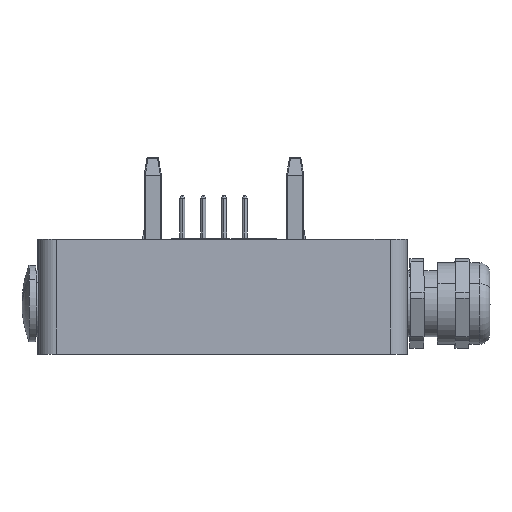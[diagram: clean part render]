
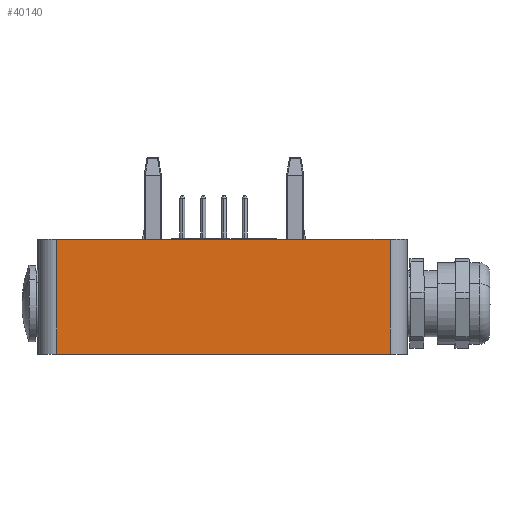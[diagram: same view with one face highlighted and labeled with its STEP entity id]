
A CAD part, left-side view. The second image highlights one B-rep face of the part: STEP entity #40140.
In plain terms, the highlighted planar face has unit normal (-1, -0.009, 0).
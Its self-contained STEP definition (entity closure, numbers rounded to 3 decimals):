
#3704 = DIRECTION ( 'NONE',  ( 0., 0., 1. ) ) ;
#4393 = LINE ( 'NONE', #52589, #54812 ) ;
#9016 = ORIENTED_EDGE ( 'NONE', *, *, #47068, .F. ) ;
#12367 = VERTEX_POINT ( 'NONE', #61094 ) ;
#13411 = PLANE ( 'NONE',  #40509 ) ;
#17214 = CARTESIAN_POINT ( 'NONE',  ( -40.531, 57.217, 12.742 ) ) ;
#17241 = EDGE_CURVE ( 'NONE', #52872, #12367, #4393, .T. ) ;
#18741 = EDGE_LOOP ( 'NONE', ( #47680, #25965, #9016, #57466 ) ) ;
#23225 = EDGE_CURVE ( 'NONE', #12367, #83842, #38580, .T. ) ;
#25965 = ORIENTED_EDGE ( 'NONE', *, *, #23225, .T. ) ;
#31397 = CARTESIAN_POINT ( 'NONE',  ( -40.531, 57.217, 12.742 ) ) ;
#37982 = LINE ( 'NONE', #44398, #43958 ) ;
#38580 = LINE ( 'NONE', #66507, #63798 ) ;
#40140 = ADVANCED_FACE ( 'NONE', ( #61593 ), #13411, .F. ) ;
#40509 = AXIS2_PLACEMENT_3D ( 'NONE', #83147, #75333, #47845 ) ;
#43958 = VECTOR ( 'NONE', #66800, 1000. ) ;
#44398 = CARTESIAN_POINT ( 'NONE',  ( -40.577, 62.217, 12.742 ) ) ;
#44555 = CARTESIAN_POINT ( 'NONE',  ( -40.531, 57.217, -20.258 ) ) ;
#45229 = DIRECTION ( 'NONE',  ( 0., 0., -1. ) ) ;
#47068 = EDGE_CURVE ( 'NONE', #50351, #83842, #37982, .T. ) ;
#47313 = CARTESIAN_POINT ( 'NONE',  ( -39.652, -38.779, 12.742 ) ) ;
#47680 = ORIENTED_EDGE ( 'NONE', *, *, #17241, .T. ) ;
#47845 = DIRECTION ( 'NONE',  ( -0.009, 1., 0. ) ) ;
#50351 = VERTEX_POINT ( 'NONE', #31397 ) ;
#51407 = VECTOR ( 'NONE', #45229, 1000. ) ;
#52589 = CARTESIAN_POINT ( 'NONE',  ( -40.577, 62.217, -20.258 ) ) ;
#52872 = VERTEX_POINT ( 'NONE', #44555 ) ;
#54812 = VECTOR ( 'NONE', #58991, 1000. ) ;
#57466 = ORIENTED_EDGE ( 'NONE', *, *, #59775, .T. ) ;
#58991 = DIRECTION ( 'NONE',  ( 0.009, -1., 0. ) ) ;
#59775 = EDGE_CURVE ( 'NONE', #50351, #52872, #78712, .T. ) ;
#61094 = CARTESIAN_POINT ( 'NONE',  ( -39.652, -38.779, -20.258 ) ) ;
#61593 = FACE_OUTER_BOUND ( 'NONE', #18741, .T. ) ;
#63798 = VECTOR ( 'NONE', #3704, 1000. ) ;
#66507 = CARTESIAN_POINT ( 'NONE',  ( -39.652, -38.779, 12.742 ) ) ;
#66800 = DIRECTION ( 'NONE',  ( 0.009, -1., 0. ) ) ;
#75333 = DIRECTION ( 'NONE',  ( 1., 0.009, 0. ) ) ;
#78712 = LINE ( 'NONE', #17214, #51407 ) ;
#83147 = CARTESIAN_POINT ( 'NONE',  ( -40.577, 62.217, 12.742 ) ) ;
#83842 = VERTEX_POINT ( 'NONE', #47313 ) ;
